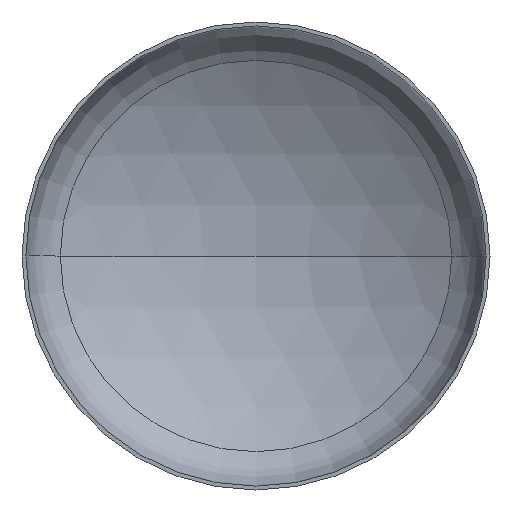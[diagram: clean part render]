
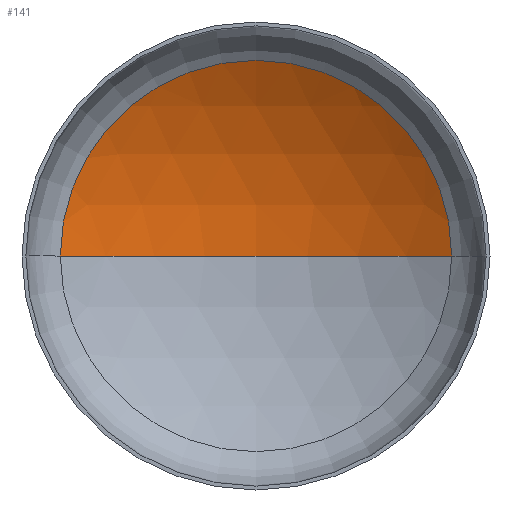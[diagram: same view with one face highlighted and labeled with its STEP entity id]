
A CAD part, front view. The second image highlights one B-rep face of the part: STEP entity #141.
In plain terms, the highlighted spherical face has radius 4800 mm.
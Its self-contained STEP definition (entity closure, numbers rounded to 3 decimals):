
#13 = VERTEX_POINT ( 'NONE', #290 ) ;
#18 = ORIENTED_EDGE ( 'NONE', *, *, #212, .T. ) ;
#23 = CIRCLE ( 'NONE', #154, 4800. ) ;
#26 = VERTEX_POINT ( 'NONE', #29 ) ;
#29 = CARTESIAN_POINT ( 'NONE',  ( 2508.387, 938.646, 0. ) ) ;
#41 = VERTEX_POINT ( 'NONE', #195 ) ;
#52 = ORIENTED_EDGE ( 'NONE', *, *, #247, .T. ) ;
#66 = DIRECTION ( 'NONE',  ( 0., -1., 0. ) ) ;
#69 = CARTESIAN_POINT ( 'NONE',  ( 0., -3153.786, 0. ) ) ;
#81 = AXIS2_PLACEMENT_3D ( 'NONE', #262, #66, #294 ) ;
#87 = ORIENTED_EDGE ( 'NONE', *, *, #285, .F. ) ;
#89 = EDGE_LOOP ( 'NONE', ( #87, #52, #18 ) ) ;
#112 = FACE_OUTER_BOUND ( 'NONE', #89, .T. ) ;
#114 = CARTESIAN_POINT ( 'NONE',  ( 0., -3153.786, 0. ) ) ;
#122 = DIRECTION ( 'NONE',  ( -1., 0., 0. ) ) ;
#123 = DIRECTION ( 'NONE',  ( 0., 0., 1. ) ) ;
#134 = DIRECTION ( 'NONE',  ( 0., 0., -1. ) ) ;
#135 = AXIS2_PLACEMENT_3D ( 'NONE', #297, #123, #318 ) ;
#141 = ADVANCED_FACE ( 'NONE', ( #112 ), #386, .F. ) ;
#154 = AXIS2_PLACEMENT_3D ( 'NONE', #69, #295, #122 ) ;
#195 = CARTESIAN_POINT ( 'NONE',  ( -2508.387, 938.646, 0. ) ) ;
#212 = EDGE_CURVE ( 'NONE', #26, #41, #372, .T. ) ;
#247 = EDGE_CURVE ( 'NONE', #13, #26, #23, .T. ) ;
#262 = CARTESIAN_POINT ( 'NONE',  ( 0., 938.646, 0. ) ) ;
#263 = DIRECTION ( 'NONE',  ( -1., 0., 0. ) ) ;
#285 = EDGE_CURVE ( 'NONE', #13, #41, #364, .T. ) ;
#290 = CARTESIAN_POINT ( 'NONE',  ( 0., 1646.214, 0. ) ) ;
#294 = DIRECTION ( 'NONE',  ( 1., 0., 0. ) ) ;
#295 = DIRECTION ( 'NONE',  ( 0., 0., -1. ) ) ;
#297 = CARTESIAN_POINT ( 'NONE',  ( 0., -3153.786, 0. ) ) ;
#318 = DIRECTION ( 'NONE',  ( 1., 0., 0. ) ) ;
#326 = AXIS2_PLACEMENT_3D ( 'NONE', #114, #134, #263 ) ;
#364 = CIRCLE ( 'NONE', #135, 4800. ) ;
#372 = CIRCLE ( 'NONE', #81, 2508.387 ) ;
#386 = SPHERICAL_SURFACE ( 'NONE', #326, 4800. ) ;
